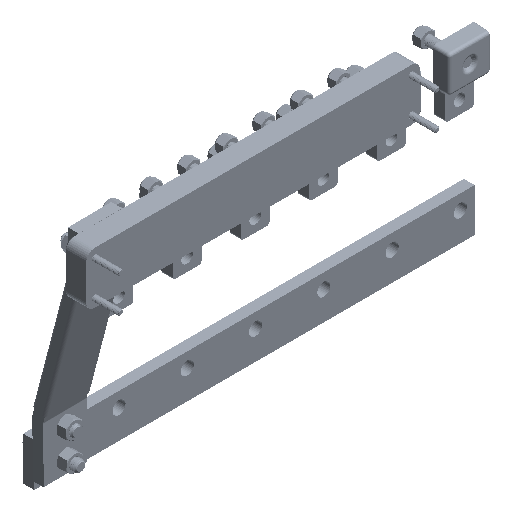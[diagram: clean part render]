
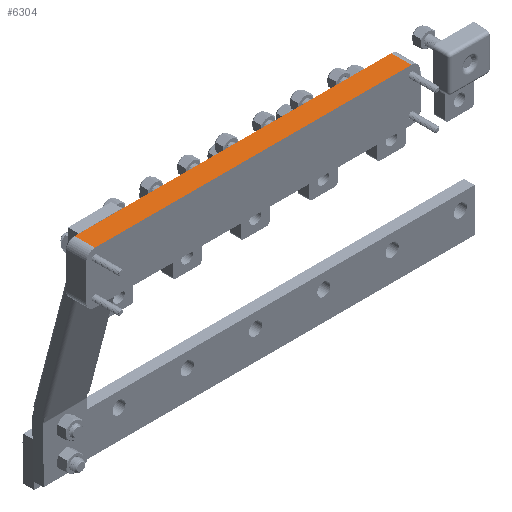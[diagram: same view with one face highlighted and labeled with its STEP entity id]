
A CAD part, isometric view. The second image highlights one B-rep face of the part: STEP entity #6304.
In plain terms, the highlighted planar face has unit normal (0, 0, 1) as drawn and (0, -1, 0) by its records, which use the part's own axes.
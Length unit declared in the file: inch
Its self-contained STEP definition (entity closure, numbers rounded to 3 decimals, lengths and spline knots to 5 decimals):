
#3792 = VECTOR ( 'NONE', #26851, 39.37008 ) ;
#4523 = CARTESIAN_POINT ( 'NONE',  ( 4.9625, -1.52333, 0.412 ) ) ;
#6304 = ADVANCED_FACE ( 'NONE', ( #18733 ), #18762, .F. ) ;
#8949 = VERTEX_POINT ( 'NONE', #23403 ) ;
#10468 = EDGE_CURVE ( 'NONE', #11675, #28882, #22670, .T. ) ;
#11675 = VERTEX_POINT ( 'NONE', #47237 ) ;
#12469 = ORIENTED_EDGE ( 'NONE', *, *, #43402, .F. ) ;
#14153 = LINE ( 'NONE', #21997, #32052 ) ;
#14557 = VERTEX_POINT ( 'NONE', #15844 ) ;
#14648 = VECTOR ( 'NONE', #19624, 39.37008 ) ;
#15844 = CARTESIAN_POINT ( 'NONE',  ( 4.9625, -1.52333, -0.288 ) ) ;
#17979 = DIRECTION ( 'NONE',  ( -1., 0., 0. ) ) ;
#17990 = DIRECTION ( 'NONE',  ( 0., 1., 0. ) ) ;
#18102 = CARTESIAN_POINT ( 'NONE',  ( 4.9625, -1.52333, 0.412 ) ) ;
#18733 = FACE_OUTER_BOUND ( 'NONE', #48640, .T. ) ;
#18762 = PLANE ( 'NONE',  #31479 ) ;
#19220 = CARTESIAN_POINT ( 'NONE',  ( 4.9625, -1.52333, -0.288 ) ) ;
#19624 = DIRECTION ( 'NONE',  ( 1., 0., 0. ) ) ;
#21997 = CARTESIAN_POINT ( 'NONE',  ( -6., -1.52333, 0.412 ) ) ;
#22089 = LINE ( 'NONE', #19220, #44483 ) ;
#22572 = ORIENTED_EDGE ( 'NONE', *, *, #26718, .T. ) ;
#22670 = LINE ( 'NONE', #24412, #14648 ) ;
#23403 = CARTESIAN_POINT ( 'NONE',  ( -6., -1.52333, -0.288 ) ) ;
#24264 = EDGE_CURVE ( 'NONE', #8949, #14557, #22089, .T. ) ;
#24412 = CARTESIAN_POINT ( 'NONE',  ( 4.9625, -1.52333, 0.412 ) ) ;
#26718 = EDGE_CURVE ( 'NONE', #11675, #8949, #14153, .T. ) ;
#26851 = DIRECTION ( 'NONE',  ( 0., 0., -1. ) ) ;
#28800 = ORIENTED_EDGE ( 'NONE', *, *, #24264, .T. ) ;
#28882 = VERTEX_POINT ( 'NONE', #45023 ) ;
#31479 = AXIS2_PLACEMENT_3D ( 'NONE', #18102, #17990, #17979 ) ;
#32052 = VECTOR ( 'NONE', #44362, 39.37008 ) ;
#33751 = DIRECTION ( 'NONE',  ( 1., 0., 0. ) ) ;
#33940 = ORIENTED_EDGE ( 'NONE', *, *, #10468, .F. ) ;
#43402 = EDGE_CURVE ( 'NONE', #28882, #14557, #43580, .T. ) ;
#43580 = LINE ( 'NONE', #4523, #3792 ) ;
#44362 = DIRECTION ( 'NONE',  ( 0., 0., -1. ) ) ;
#44483 = VECTOR ( 'NONE', #33751, 39.37008 ) ;
#45023 = CARTESIAN_POINT ( 'NONE',  ( 4.9625, -1.52333, 0.412 ) ) ;
#47237 = CARTESIAN_POINT ( 'NONE',  ( -6., -1.52333, 0.412 ) ) ;
#48640 = EDGE_LOOP ( 'NONE', ( #22572, #28800, #12469, #33940 ) ) ;
